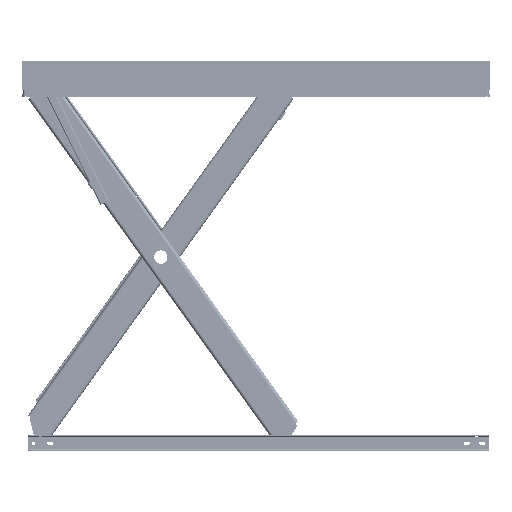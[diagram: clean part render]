
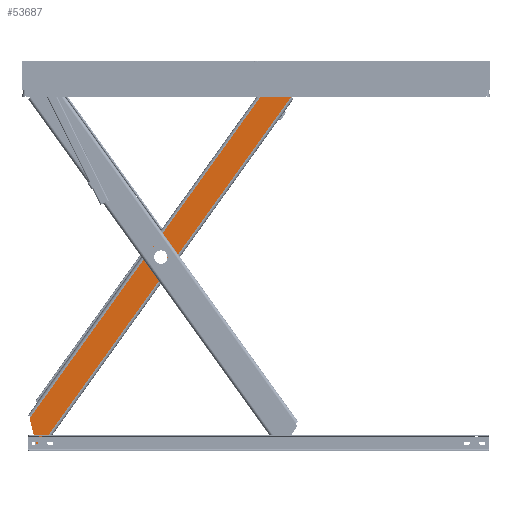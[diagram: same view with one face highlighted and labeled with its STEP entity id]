
A CAD part, left-side view. The second image highlights one B-rep face of the part: STEP entity #53687.
In plain terms, the highlighted planar face has unit normal (-1, 0, 0) as drawn and (1, 0, 0) by its records, which use the part's own axes.
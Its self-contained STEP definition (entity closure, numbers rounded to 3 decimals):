
#1691=FACE_BOUND('',#7298,.T.);
#1692=FACE_BOUND('',#7299,.T.);
#1693=FACE_BOUND('',#7300,.T.);
#2263=PLANE('',#57667);
#4170=FACE_OUTER_BOUND('',#7297,.T.);
#7297=EDGE_LOOP('',(#38975,#38976,#38977,#38978,#38979,#38980,#38981,#38982,
#38983,#38984,#38985,#38986,#38987,#38988,#38989));
#7298=EDGE_LOOP('',(#38990));
#7299=EDGE_LOOP('',(#38991));
#7300=EDGE_LOOP('',(#38992));
#10887=LINE('',#80597,#16199);
#10912=LINE('',#80686,#16224);
#10920=LINE('',#80706,#16232);
#10932=LINE('',#80807,#16244);
#10947=LINE('',#80925,#16259);
#10953=LINE('',#80990,#16265);
#10957=LINE('',#81002,#16269);
#10963=LINE('',#81022,#16275);
#10964=LINE('',#81023,#16276);
#16199=VECTOR('',#64540,10.);
#16224=VECTOR('',#64615,10.);
#16232=VECTOR('',#64635,10.);
#16244=VECTOR('',#64671,10.);
#16259=VECTOR('',#64724,10.);
#16265=VECTOR('',#64746,10.);
#16269=VECTOR('',#64762,10.);
#16275=VECTOR('',#64788,10.);
#16276=VECTOR('',#64789,10.);
#21134=CIRCLE('',#57580,20.);
#21153=CIRCLE('',#57605,20.);
#21155=CIRCLE('',#57611,5.);
#21161=CIRCLE('',#57626,5.);
#21175=CIRCLE('',#57654,30.);
#21177=CIRCLE('',#57659,30.);
#21182=CIRCLE('',#57668,43.15);
#21183=CIRCLE('',#57669,10.25);
#21184=CIRCLE('',#57670,10.25);
#23760=VERTEX_POINT('',#80587);
#23761=VERTEX_POINT('',#80589);
#23763=VERTEX_POINT('',#80595);
#23800=VERTEX_POINT('',#80678);
#23801=VERTEX_POINT('',#80680);
#23802=VERTEX_POINT('',#80684);
#23806=VERTEX_POINT('',#80698);
#23807=VERTEX_POINT('',#80699);
#23808=VERTEX_POINT('',#80704);
#23820=VERTEX_POINT('',#80779);
#23823=VERTEX_POINT('',#80805);
#23824=VERTEX_POINT('',#80809);
#23843=VERTEX_POINT('',#80902);
#23852=VERTEX_POINT('',#80988);
#23854=VERTEX_POINT('',#81000);
#23859=VERTEX_POINT('',#81024);
#23860=VERTEX_POINT('',#81026);
#23861=VERTEX_POINT('',#81028);
#29524=EDGE_CURVE('',#23760,#23761,#21134,.T.);
#29528=EDGE_CURVE('',#23763,#23760,#10887,.T.);
#29569=EDGE_CURVE('',#23800,#23801,#21153,.T.);
#29572=EDGE_CURVE('',#23800,#23802,#10912,.T.);
#29578=EDGE_CURVE('',#23806,#23807,#21155,.T.);
#29582=EDGE_CURVE('',#23806,#23808,#10920,.T.);
#29605=EDGE_CURVE('',#23823,#23820,#10932,.T.);
#29606=EDGE_CURVE('',#23824,#23823,#21161,.T.);
#29636=EDGE_CURVE('',#23843,#23807,#10947,.T.);
#29650=EDGE_CURVE('',#23808,#23852,#10953,.T.);
#29653=EDGE_CURVE('',#23852,#23761,#21175,.T.);
#29656=EDGE_CURVE('',#23824,#23854,#10957,.T.);
#29657=EDGE_CURVE('',#23854,#23801,#21177,.T.);
#29667=EDGE_CURVE('',#23820,#23763,#10963,.T.);
#29668=EDGE_CURVE('',#23802,#23843,#10964,.T.);
#29669=EDGE_CURVE('',#23859,#23859,#21182,.T.);
#29670=EDGE_CURVE('',#23860,#23860,#21183,.T.);
#29671=EDGE_CURVE('',#23861,#23861,#21184,.T.);
#38975=ORIENTED_EDGE('',*,*,#29524,.F.);
#38976=ORIENTED_EDGE('',*,*,#29528,.F.);
#38977=ORIENTED_EDGE('',*,*,#29667,.F.);
#38978=ORIENTED_EDGE('',*,*,#29605,.F.);
#38979=ORIENTED_EDGE('',*,*,#29606,.F.);
#38980=ORIENTED_EDGE('',*,*,#29656,.T.);
#38981=ORIENTED_EDGE('',*,*,#29657,.T.);
#38982=ORIENTED_EDGE('',*,*,#29569,.F.);
#38983=ORIENTED_EDGE('',*,*,#29572,.T.);
#38984=ORIENTED_EDGE('',*,*,#29668,.T.);
#38985=ORIENTED_EDGE('',*,*,#29636,.T.);
#38986=ORIENTED_EDGE('',*,*,#29578,.F.);
#38987=ORIENTED_EDGE('',*,*,#29582,.T.);
#38988=ORIENTED_EDGE('',*,*,#29650,.T.);
#38989=ORIENTED_EDGE('',*,*,#29653,.T.);
#38990=ORIENTED_EDGE('',*,*,#29669,.T.);
#38991=ORIENTED_EDGE('',*,*,#29670,.T.);
#38992=ORIENTED_EDGE('',*,*,#29671,.T.);
#53687=ADVANCED_FACE('',(#4170,#1691,#1692,#1693),#2263,.T.);
#57580=AXIS2_PLACEMENT_3D('',#80590,#64533,#64534);
#57605=AXIS2_PLACEMENT_3D('',#80681,#64609,#64610);
#57611=AXIS2_PLACEMENT_3D('',#80700,#64628,#64629);
#57626=AXIS2_PLACEMENT_3D('',#80810,#64674,#64675);
#57654=AXIS2_PLACEMENT_3D('',#80996,#64753,#64754);
#57659=AXIS2_PLACEMENT_3D('',#81004,#64765,#64766);
#57667=AXIS2_PLACEMENT_3D('',#81021,#64786,#64787);
#57668=AXIS2_PLACEMENT_3D('',#81025,#64790,#64791);
#57669=AXIS2_PLACEMENT_3D('',#81027,#64792,#64793);
#57670=AXIS2_PLACEMENT_3D('',#81029,#64794,#64795);
#64533=DIRECTION('center_axis',(-1.,0.,0.));
#64534=DIRECTION('ref_axis',(0.,-0.671,0.742));
#64540=DIRECTION('',(0.,0.,1.));
#64609=DIRECTION('center_axis',(-1.,0.,0.));
#64610=DIRECTION('ref_axis',(0.,0.671,-0.742));
#64615=DIRECTION('',(0.,0.,1.));
#64628=DIRECTION('center_axis',(-1.,0.,0.));
#64629=DIRECTION('ref_axis',(0.,0.906,0.423));
#64635=DIRECTION('',(0.,-0.766,0.643));
#64671=DIRECTION('',(0.,0.,1.));
#64674=DIRECTION('center_axis',(-1.,0.,0.));
#64675=DIRECTION('ref_axis',(0.,-0.906,-0.423));
#64724=DIRECTION('',(0.,0.,1.));
#64746=DIRECTION('',(0.,-0.757,0.653));
#64753=DIRECTION('center_axis',(1.,0.,0.));
#64754=DIRECTION('ref_axis',(0.,-0.653,-0.757));
#64762=DIRECTION('',(0.,0.766,-0.643));
#64765=DIRECTION('center_axis',(1.,0.,0.));
#64766=DIRECTION('ref_axis',(0.,0.643,0.766));
#64786=DIRECTION('center_axis',(1.,0.,0.));
#64787=DIRECTION('ref_axis',(0.,0.,-1.));
#64788=DIRECTION('',(0.,0.,1.));
#64789=DIRECTION('',(0.,0.,1.));
#64790=DIRECTION('center_axis',(-1.,0.,0.));
#64791=DIRECTION('ref_axis',(0.,0.,
1.));
#64792=DIRECTION('center_axis',(-1.,0.,0.));
#64793=DIRECTION('ref_axis',(0.,0.,
1.));
#64794=DIRECTION('center_axis',(-1.,0.,0.));
#64795=DIRECTION('ref_axis',(0.,0.,
1.));
#80587=CARTESIAN_POINT('',(50.,-80.,2859.95));
#80589=CARTESIAN_POINT('',(50.,-58.,2879.85));
#80590=CARTESIAN_POINT('Origin',(50.,-60.,2859.95));
#80595=CARTESIAN_POINT('',(50.,-80.,2785.));
#80597=CARTESIAN_POINT('',(50.,-80.,0.));
#80678=CARTESIAN_POINT('',(50.,80.,20.05));
#80680=CARTESIAN_POINT('',(50.,58.,0.15));
#80681=CARTESIAN_POINT('Origin',(50.,60.,20.05));
#80684=CARTESIAN_POINT('',(50.,80.,95.));
#80686=CARTESIAN_POINT('',(50.,80.,0.));
#80698=CARTESIAN_POINT('',(50.,78.214,2772.011));
#80699=CARTESIAN_POINT('',(50.,80.,2768.18));
#80700=CARTESIAN_POINT('Origin',(50.,75.,2768.18));
#80704=CARTESIAN_POINT('',(50.,-26.946,2860.25));
#80706=CARTESIAN_POINT('',(50.,762.105,2198.158));
#80779=CARTESIAN_POINT('',(50.,-80.,115.));
#80805=CARTESIAN_POINT('',(50.,-80.,111.482));
#80807=CARTESIAN_POINT('',(50.,-80.,0.));
#80809=CARTESIAN_POINT('',(50.,-78.214,107.652));
#80810=CARTESIAN_POINT('Origin',(50.,-75.,111.482));
#80902=CARTESIAN_POINT('',(50.,80.,2765.));
#80925=CARTESIAN_POINT('',(50.,80.,0.));
#80988=CARTESIAN_POINT('',(50.,-41.411,2872.721));
#80990=CARTESIAN_POINT('',(50.,710.997,2224.019));
#80996=CARTESIAN_POINT('Origin',(50.,-61.,2850.));
#81000=CARTESIAN_POINT('',(50.,41.716,7.019));
#81002=CARTESIAN_POINT('',(50.,-6.181,47.209));
#81004=CARTESIAN_POINT('Origin',(50.,61.,30.));
#81021=CARTESIAN_POINT('Origin',(50.,80.,0.));
#81022=CARTESIAN_POINT('',(50.,-80.,0.));
#81023=CARTESIAN_POINT('',(50.,80.,0.));
#81024=CARTESIAN_POINT('',(50.,0.,1396.85));
#81025=CARTESIAN_POINT('Origin',(50.,0.,
1440.));
#81026=CARTESIAN_POINT('',(50.,-61.,2839.75));
#81027=CARTESIAN_POINT('Origin',(50.,-61.,2850.));
#81028=CARTESIAN_POINT('',(50.,61.,19.75));
#81029=CARTESIAN_POINT('Origin',(50.,61.,30.));
